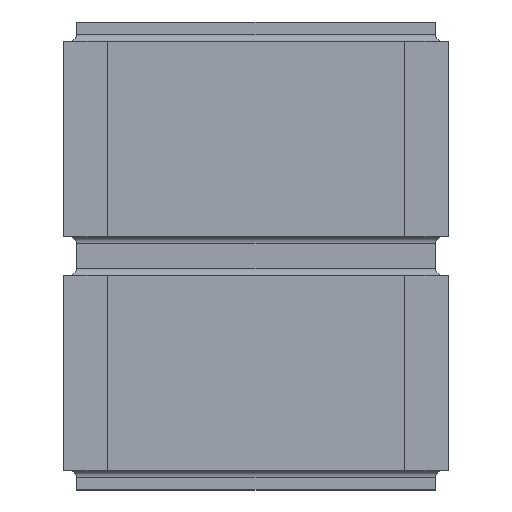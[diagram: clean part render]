
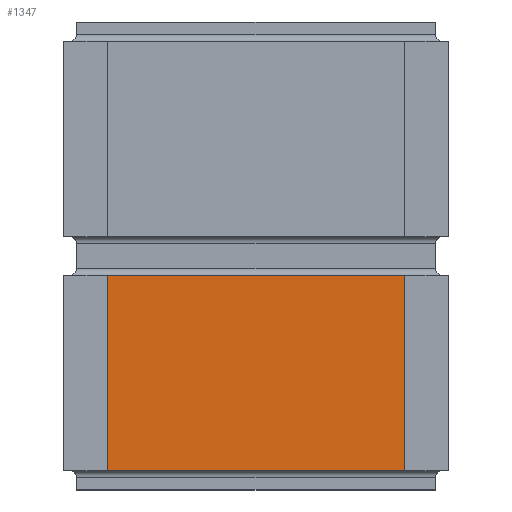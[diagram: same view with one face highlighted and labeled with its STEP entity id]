
A CAD part, top view. The second image highlights one B-rep face of the part: STEP entity #1347.
In plain terms, the highlighted planar face has unit normal (0, 0, 1).
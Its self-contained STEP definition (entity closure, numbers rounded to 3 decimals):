
#85=FACE_OUTER_BOUND('',#169,.T.);
#169=EDGE_LOOP('',(#999,#1000,#1001,#1002));
#262=LINE('',#1980,#434);
#274=LINE('',#2009,#446);
#283=LINE('',#2030,#455);
#285=LINE('',#2033,#457);
#434=VECTOR('',#1602,10.);
#446=VECTOR('',#1630,10.);
#455=VECTOR('',#1651,10.);
#457=VECTOR('',#1655,10.);
#598=VERTEX_POINT('',#1978);
#599=VERTEX_POINT('',#1979);
#607=VERTEX_POINT('',#2006);
#614=VERTEX_POINT('',#2028);
#730=EDGE_CURVE('',#598,#599,#262,.T.);
#744=EDGE_CURVE('',#607,#598,#274,.T.);
#755=EDGE_CURVE('',#614,#607,#283,.T.);
#757=EDGE_CURVE('',#614,#599,#285,.T.);
#999=ORIENTED_EDGE('',*,*,#755,.F.);
#1000=ORIENTED_EDGE('',*,*,#757,.T.);
#1001=ORIENTED_EDGE('',*,*,#730,.F.);
#1002=ORIENTED_EDGE('',*,*,#744,.F.);
#1274=PLANE('',#1461);
#1347=ADVANCED_FACE('',(#85),#1274,.T.);
#1461=AXIS2_PLACEMENT_3D('',#2032,#1653,#1654);
#1602=DIRECTION('',(-1.,0.,0.));
#1630=DIRECTION('',(0.,-1.,0.));
#1651=DIRECTION('',(1.,0.,0.));
#1653=DIRECTION('center_axis',(0.,0.,1.));
#1654=DIRECTION('ref_axis',(1.,0.,0.));
#1655=DIRECTION('',(0.,-1.,0.));
#1978=CARTESIAN_POINT('',(2.995,0.15,0.375));
#1979=CARTESIAN_POINT('',(0.005,0.15,0.375));
#1980=CARTESIAN_POINT('',(2.995,0.15,0.375));
#2006=CARTESIAN_POINT('',(2.995,1.675,0.375));
#2009=CARTESIAN_POINT('',(2.995,1.675,0.375));
#2028=CARTESIAN_POINT('',(0.005,1.675,0.375));
#2030=CARTESIAN_POINT('',(0.005,1.675,0.375));
#2032=CARTESIAN_POINT('Origin',(1.5,1.675,0.375));
#2033=CARTESIAN_POINT('',(0.005,1.675,0.375));
